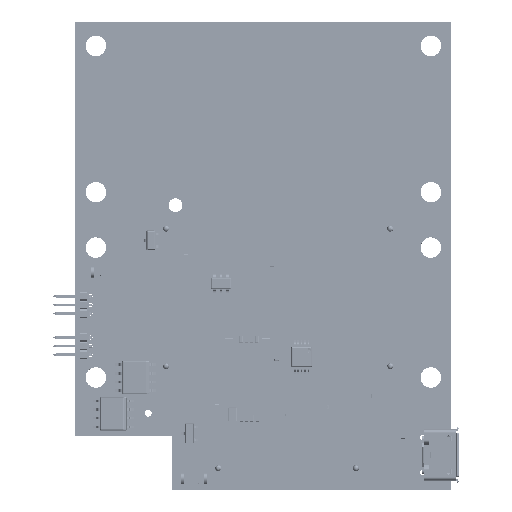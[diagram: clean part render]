
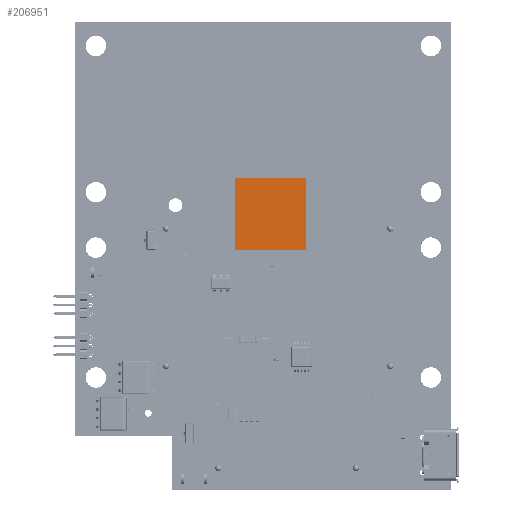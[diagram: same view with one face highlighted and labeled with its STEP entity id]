
A CAD part, top view. The second image highlights one B-rep face of the part: STEP entity #206951.
In plain terms, the highlighted planar face has unit normal (0, 0, 1) as drawn and (0, 1, 0) by its records, which use the part's own axes.
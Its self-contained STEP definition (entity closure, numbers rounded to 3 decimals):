
#206861 = VERTEX_POINT('',#206862);
#206862 = CARTESIAN_POINT('',(-5.2,0.15,-5.2));
#206868 = EDGE_CURVE('',#206861,#206869,#206871,.T.);
#206869 = VERTEX_POINT('',#206870);
#206870 = CARTESIAN_POINT('',(-5.2,0.15,5.2));
#206871 = LINE('',#206872,#206873);
#206872 = CARTESIAN_POINT('',(-5.2,0.15,-5.2));
#206873 = VECTOR('',#206874,1.);
#206874 = DIRECTION('',(0.,0.,1.));
#206892 = VERTEX_POINT('',#206893);
#206893 = CARTESIAN_POINT('',(5.2,0.15,-5.2));
#206899 = EDGE_CURVE('',#206892,#206861,#206900,.T.);
#206900 = LINE('',#206901,#206902);
#206901 = CARTESIAN_POINT('',(5.2,0.15,-5.2));
#206902 = VECTOR('',#206903,1.);
#206903 = DIRECTION('',(-1.,0.,0.));
#206916 = VERTEX_POINT('',#206917);
#206917 = CARTESIAN_POINT('',(5.2,0.15,5.2));
#206923 = EDGE_CURVE('',#206916,#206892,#206924,.T.);
#206924 = LINE('',#206925,#206926);
#206925 = CARTESIAN_POINT('',(5.2,0.15,5.2));
#206926 = VECTOR('',#206927,1.);
#206927 = DIRECTION('',(0.,0.,-1.));
#206940 = EDGE_CURVE('',#206869,#206916,#206941,.T.);
#206941 = LINE('',#206942,#206943);
#206942 = CARTESIAN_POINT('',(-5.2,0.15,5.2));
#206943 = VECTOR('',#206944,1.);
#206944 = DIRECTION('',(1.,0.,0.));
#206951 = ADVANCED_FACE('',(#206952),#206958,.T.);
#206952 = FACE_BOUND('',#206953,.F.);
#206953 = EDGE_LOOP('',(#206954,#206955,#206956,#206957));
#206954 = ORIENTED_EDGE('',*,*,#206868,.F.);
#206955 = ORIENTED_EDGE('',*,*,#206899,.F.);
#206956 = ORIENTED_EDGE('',*,*,#206923,.F.);
#206957 = ORIENTED_EDGE('',*,*,#206940,.F.);
#206958 = PLANE('',#206959);
#206959 = AXIS2_PLACEMENT_3D('',#206960,#206961,#206962);
#206960 = CARTESIAN_POINT('',(0.,0.15,0.));
#206961 = DIRECTION('',(0.,1.,0.));
#206962 = DIRECTION('',(1.,0.,0.));
